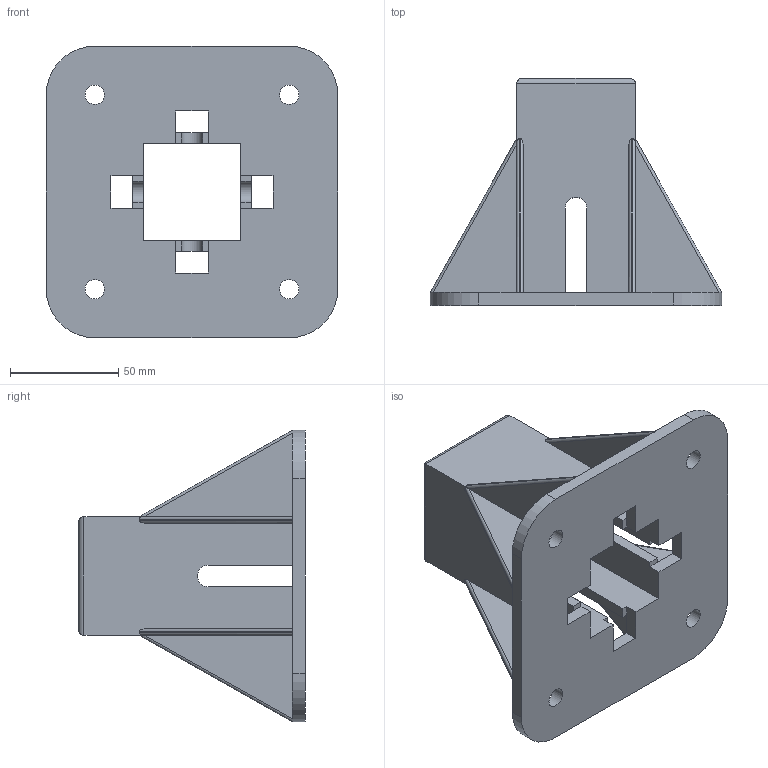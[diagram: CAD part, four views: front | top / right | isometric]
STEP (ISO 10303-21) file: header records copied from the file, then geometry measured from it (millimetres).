
FILE_DESCRIPTION(/* description */ ('Piedino di fondazione per profilo 45x45'),/* implementation_level */ '2;1');
FILE_NAME(/* name */ 'C:\Users\Stefan.Nesic\Desktop\01010STEP\PF4545.stp',/* time_stamp */ '2022-06-18T10:34:12+02:00',/* author */ ('daniele.berto'),/* organization */ (''),/* preprocessor_version */ 'ST-DEVELOPER v18.1',/* originating_system */ 'Autodesk Inventor 2021',/* authorisation */ '');
FILE_SCHEMA (('AUTOMOTIVE_DESIGN { 1 0 10303 214 3 1 1 }'));
Length unit declared in the file: millimetre
Products named in the file (1): PF4545
Bounding box: 135 x 105 x 135 mm (x, y, z)
Volume: 211471.5 mm3; surface area: 94261.3 mm2
Topology: 1 solids, 1 shells, 106 faces, 296 edges, 184 vertices
Faces by surface type: plane 74, cylinder 32
Full cylindrical faces by diameter (mm): 9 x4
Entity records: 3417 total; most frequent: ORIENTED_EDGE 592, CARTESIAN_POINT 587, DIRECTION 570, EDGE_CURVE 296, LINE 236, VECTOR 236, VERTEX_POINT 184, AXIS2_PLACEMENT_3D 167
